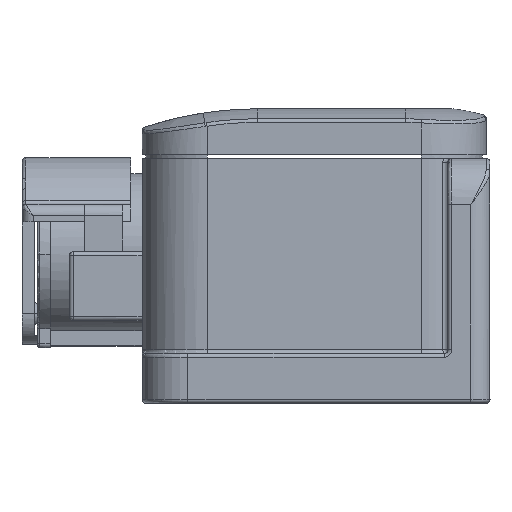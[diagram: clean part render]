
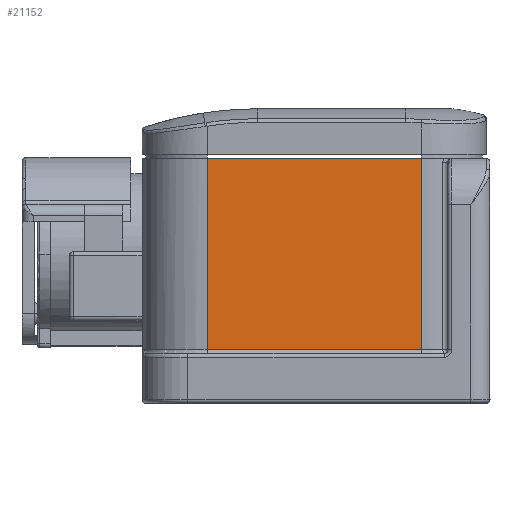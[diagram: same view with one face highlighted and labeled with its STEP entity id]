
A CAD part, left-side view. The second image highlights one B-rep face of the part: STEP entity #21152.
In plain terms, the highlighted planar face has unit normal (-1, 0, 0).
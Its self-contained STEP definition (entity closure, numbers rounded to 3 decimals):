
#1709 = CARTESIAN_POINT ( 'NONE',  ( -75., 14.56, -19. ) ) ;
#3170 = EDGE_CURVE ( 'NONE', #5497, #20396, #12364, .T. ) ;
#3686 = VERTEX_POINT ( 'NONE', #12073 ) ;
#4495 = EDGE_CURVE ( 'NONE', #3686, #8261, #19893, .T. ) ;
#4877 = EDGE_CURVE ( 'NONE', #8261, #5497, #20111, .T. ) ;
#4974 = CARTESIAN_POINT ( 'NONE',  ( -75., -14., 6.5 ) ) ;
#5169 = FACE_OUTER_BOUND ( 'NONE', #20653, .T. ) ;
#5235 = LINE ( 'NONE', #12594, #15907 ) ;
#5480 = CARTESIAN_POINT ( 'NONE',  ( -75., 14., -18.5 ) ) ;
#5497 = VERTEX_POINT ( 'NONE', #5480 ) ;
#5891 = VECTOR ( 'NONE', #23726, 1000. ) ;
#6251 = EDGE_CURVE ( 'NONE', #3686, #20396, #5235, .T. ) ;
#6940 = CARTESIAN_POINT ( 'NONE',  ( -75., 14., -18.5 ) ) ;
#7132 = VECTOR ( 'NONE', #12338, 1000. ) ;
#8261 = VERTEX_POINT ( 'NONE', #16101 ) ;
#9038 = DIRECTION ( 'NONE',  ( 0., -1., 0. ) ) ;
#9657 = ORIENTED_EDGE ( 'NONE', *, *, #3170, .F. ) ;
#9786 = ORIENTED_EDGE ( 'NONE', *, *, #4495, .F. ) ;
#10234 = ORIENTED_EDGE ( 'NONE', *, *, #4877, .F. ) ;
#12073 = CARTESIAN_POINT ( 'NONE',  ( -75., -14., 6.5 ) ) ;
#12311 = CARTESIAN_POINT ( 'NONE',  ( -75., -14., -18.5 ) ) ;
#12338 = DIRECTION ( 'NONE',  ( 0., 0., -1. ) ) ;
#12364 = LINE ( 'NONE', #6940, #21181 ) ;
#12594 = CARTESIAN_POINT ( 'NONE',  ( -75., -14., 6.5 ) ) ;
#15048 = CARTESIAN_POINT ( 'NONE',  ( -75., 14., 6.5 ) ) ;
#15852 = DIRECTION ( 'NONE',  ( 0., 1., 0. ) ) ;
#15907 = VECTOR ( 'NONE', #15852, 1000. ) ;
#16101 = CARTESIAN_POINT ( 'NONE',  ( -75., -14., -18.5 ) ) ;
#19523 = AXIS2_PLACEMENT_3D ( 'NONE', #1709, #19840, #9038 ) ;
#19679 = DIRECTION ( 'NONE',  ( 0., 0., 1. ) ) ;
#19840 = DIRECTION ( 'NONE',  ( -1., 0., 0. ) ) ;
#19893 = LINE ( 'NONE', #4974, #7132 ) ;
#20089 = PLANE ( 'NONE',  #19523 ) ;
#20111 = LINE ( 'NONE', #12311, #5891 ) ;
#20396 = VERTEX_POINT ( 'NONE', #15048 ) ;
#20635 = ORIENTED_EDGE ( 'NONE', *, *, #6251, .T. ) ;
#20653 = EDGE_LOOP ( 'NONE', ( #20635, #9657, #10234, #9786 ) ) ;
#21152 = ADVANCED_FACE ( 'NONE', ( #5169 ), #20089, .T. ) ;
#21181 = VECTOR ( 'NONE', #19679, 1000. ) ;
#23726 = DIRECTION ( 'NONE',  ( 0., 1., 0. ) ) ;
